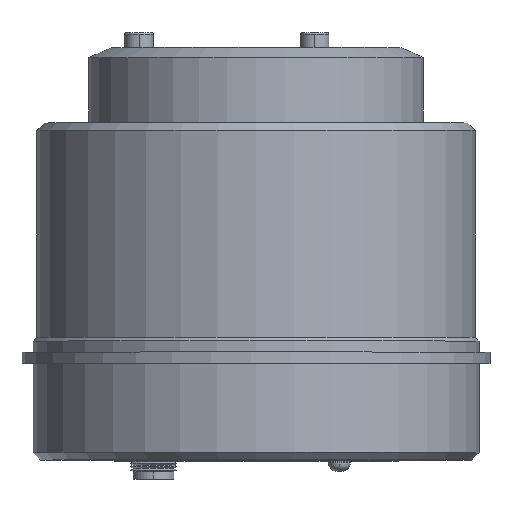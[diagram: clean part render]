
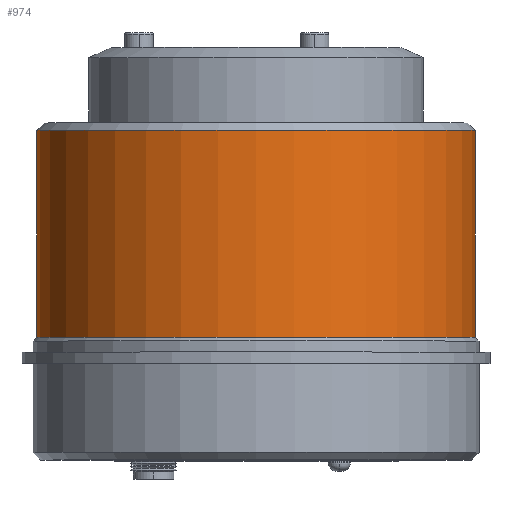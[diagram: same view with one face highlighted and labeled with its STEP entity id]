
A CAD part, top view. The second image highlights one B-rep face of the part: STEP entity #974.
In plain terms, the highlighted cylindrical face has radius 29.5 mm (diameter 59 mm), a partial arc.
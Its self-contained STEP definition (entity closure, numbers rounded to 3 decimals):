
#197 = EDGE_LOOP ( 'NONE', ( #1382, #1383, #1384, #1385 ) ) ;
#853 = EDGE_CURVE ( 'NONE', #1594, #1597, #2861, .T. ) ;
#856 = EDGE_CURVE ( 'NONE', #1597, #1584, #2507, .T. ) ;
#857 = EDGE_CURVE ( 'NONE', #1570, #1584, #2868, .T. ) ;
#858 = EDGE_CURVE ( 'NONE', #1594, #1570, #2519, .T. ) ;
#974 = ADVANCED_FACE ( 'NONE', ( #3405 ), #3404, .T. ) ;
#1382 = ORIENTED_EDGE ( 'NONE', *, *, #853, .T. ) ;
#1383 = ORIENTED_EDGE ( 'NONE', *, *, #856, .T. ) ;
#1384 = ORIENTED_EDGE ( 'NONE', *, *, #857, .F. ) ;
#1385 = ORIENTED_EDGE ( 'NONE', *, *, #858, .F. ) ;
#1570 = VERTEX_POINT ( 'NONE', #4229 ) ;
#1584 = VERTEX_POINT ( 'NONE', #4243 ) ;
#1594 = VERTEX_POINT ( 'NONE', #4253 ) ;
#1597 = VERTEX_POINT ( 'NONE', #4256 ) ;
#2507 = LINE ( 'NONE', #2517, #2864 ) ;
#2509 = CARTESIAN_POINT ( 'NONE',  ( 0., 16.6, 0. ) ) ;
#2510 = DIRECTION ( 'NONE',  ( 0., 1., 0. ) ) ;
#2511 = DIRECTION ( 'NONE',  ( -1., 0., 0. ) ) ;
#2514 = CARTESIAN_POINT ( 'NONE',  ( -29.5, 55.6, 0. ) ) ;
#2517 = CARTESIAN_POINT ( 'NONE',  ( 29.5, 55.6, 0. ) ) ;
#2518 = DIRECTION ( 'NONE',  ( 0., 1., 0. ) ) ;
#2519 = LINE ( 'NONE', #2514, #2867 ) ;
#2520 = CARTESIAN_POINT ( 'NONE',  ( 0., 44.45, 0. ) ) ;
#2521 = DIRECTION ( 'NONE',  ( 0., 1., 0. ) ) ;
#2522 = DIRECTION ( 'NONE',  ( -1., 0., 0. ) ) ;
#2524 = DIRECTION ( 'NONE',  ( 0., 1., 0. ) ) ;
#2861 = CIRCLE ( 'NONE', #2865, 29.5 ) ;
#2864 = VECTOR ( 'NONE', #2518, 1000. ) ;
#2865 = AXIS2_PLACEMENT_3D ( 'NONE', #2509, #2510, #2511 ) ;
#2867 = VECTOR ( 'NONE', #2524, 1000. ) ;
#2868 = CIRCLE ( 'NONE', #2870, 29.5 ) ;
#2870 = AXIS2_PLACEMENT_3D ( 'NONE', #2520, #2521, #2522 ) ;
#3057 = AXIS2_PLACEMENT_3D ( 'NONE', #3406, #3403, #3408 ) ;
#3403 = DIRECTION ( 'NONE',  ( 0., 1., 0. ) ) ;
#3404 = CYLINDRICAL_SURFACE ( 'NONE', #3057, 29.5 ) ;
#3405 = FACE_OUTER_BOUND ( 'NONE', #197, .T. ) ;
#3406 = CARTESIAN_POINT ( 'NONE',  ( 0., 55.6, 0. ) ) ;
#3408 = DIRECTION ( 'NONE',  ( -1., 0., 0. ) ) ;
#4229 = CARTESIAN_POINT ( 'NONE',  ( -29.5, 44.45, 0. ) ) ;
#4243 = CARTESIAN_POINT ( 'NONE',  ( 29.5, 44.45, 0. ) ) ;
#4253 = CARTESIAN_POINT ( 'NONE',  ( -29.5, 16.6, 0. ) ) ;
#4256 = CARTESIAN_POINT ( 'NONE',  ( 29.5, 16.6, 0. ) ) ;
